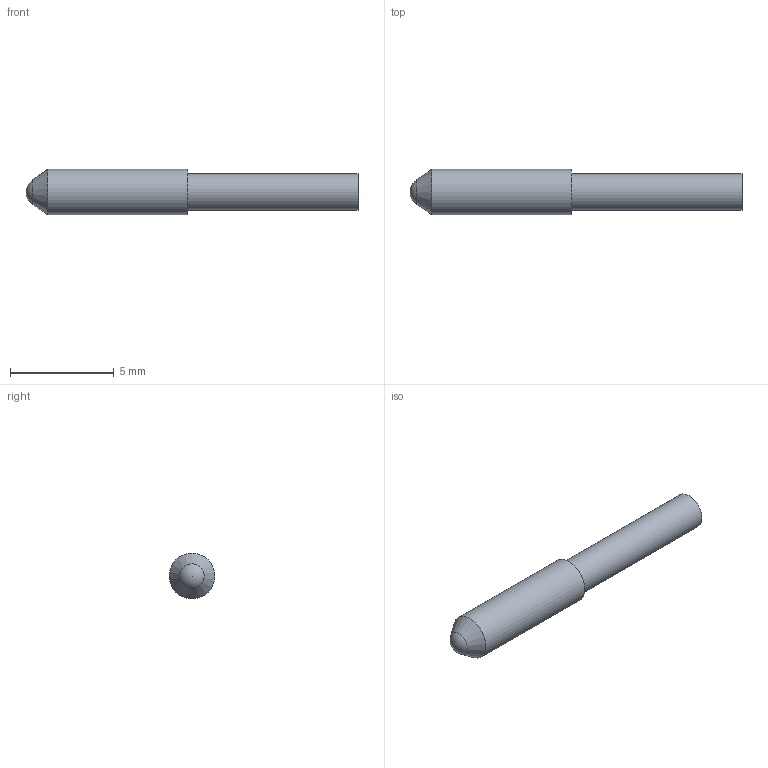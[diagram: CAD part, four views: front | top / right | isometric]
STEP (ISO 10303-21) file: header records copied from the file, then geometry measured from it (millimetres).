
FILE_DESCRIPTION( ( 'STEP AP203' ), '1' );
FILE_NAME( 'C:/Temp/Ganter_Step_05_03_2020/data/3_1/gn610/Spring loaded shell GN 610-2,2-16-K.stp', '2020-03-12T08:33:19', ( 'License CC BY-ND 4.0' ), ( 'CADENAS' ), ' ', 'PARTsolutions', ' ' );
FILE_SCHEMA( ( 'CONFIG_CONTROL_DESIGN' ) );
Length unit declared in the file: millimetre
Products named in the file (1): _Spring loaded shell GN 610-2,2-16-K
Bounding box: 16 x 2.2 x 2.2 mm (x, y, z)
Volume: 31.8 mm3; surface area: 142.1 mm2
Topology: 1 solids, 1 shells, 8 faces, 14 edges, 9 vertices
Faces by surface type: cylinder 3, plane 3, cone 1, sphere 1
Full cylindrical faces by diameter (mm): 1.56 x1, 1.76 x1, 2.2 x1
Entity records: 202 total; most frequent: DIRECTION 32, CARTESIAN_POINT 24, AXIS2_PLACEMENT_3D 16, EDGE_LOOP 14, ORIENTED_EDGE 14, FACE_OUTER_BOUND 11, ADVANCED_FACE 8, VERTEX_POINT 8
